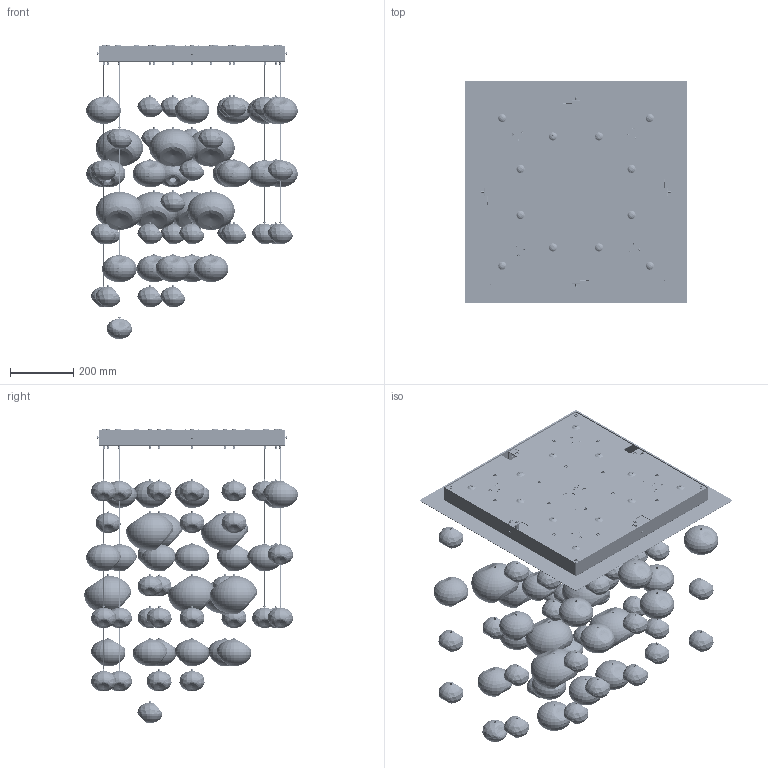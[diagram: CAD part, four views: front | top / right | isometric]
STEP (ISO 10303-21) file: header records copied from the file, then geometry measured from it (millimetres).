
FILE_DESCRIPTION(/* description */ (''),/* implementation_level */ '2;1');
FILE_NAME(/* name */ 'ETHER SQUARE D',/* time_stamp */ '2025-09-04T16:50:59+02:00',/* author */ (''),/* organization */ (''),/* preprocessor_version */ 'ST-DEVELOPER v16.5',/* originating_system */ 'Rhino 7.38',/* authorisation */ '');
FILE_SCHEMA (('CONFIG_CONTROL_DESIGN'));
Products named in the file (54): Document; Z0009; 146C009; 146C009-1; 146C009-2; X0057-008; DADO M4 DIN934 ZB; RONDELLA DENTELLATA ESTERNA M4; Z0033; Z0008; K011; RONDELLA M4 D.12 H1 ZINCATA DIN9021; VITE TCEI M4X6 UNI5931 ZB; X0072; 146C006; VITE TCEI M4X12 UNI5931 ZB; W027; K016; 146C010-G-927; Z0022; C026-927; C005; C008; B005; Vite TSP CR M3x8 zincata; VITE TC AUTOFIL M2,9X9,5 ZN UNI6954AB DIN7981C; K001; R001-36; 146C005; RONDELLA Ø7 H2 F.Ø3.2 STEAB 5021-2-118; VITE AUTOFIL. Ø2.9X6.5 TCC UNI 6954 AB; VITE TCEI M3X25 UNI5931 ZB; E007-0,5A; W037; Z017-P; W042; W044; 146C003; 146C020-E; 146C016-A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
Assembly tree (222 placements, depth 3):
  Document
    Z0009  x22
    146C009
      146C009-1
      146C009-2
      X0057-008  x5
    DADO M4 DIN934 ZB  x4
    RONDELLA DENTELLATA ESTERNA M4  x4
    Z0033  x4
      Z0008
      K011
    RONDELLA M4 D.12 H1 ZINCATA DIN9021  x4
    VITE TCEI M4X6 UNI5931 ZB  x4
    X0072  x22
    146C006  x22
    VITE TCEI M4X12 UNI5931 ZB  x4
    W027
    K016
    146C010-G-927  x4
      Z0022
      C026-927
      C005
      C008
      B005
      Vite TSP CR M3x8 zincata
      VITE TC AUTOFIL M2,9X9,5 ZN UNI6954AB DIN7981C
      K001
      R001-36
      146C005
      RONDELLA Ø7 H2 F.Ø3.2 STEAB 5021-2-118
      VITE AUTOFIL. Ø2.9X6.5 TCC UNI 6954 AB
      VITE TCEI M3X25 UNI5931 ZB
      E007-0,5A
      W037
      Z017-P
      W042
      W044
    146C003
    146C020-E  x4
      146C016-A
      146C013
      146C015
      146C014
      146C011
      SEEGER N.4 ZINCATO minetti
    146C020-F  x6
      146C016-B
      146C014
      146C013
      SEEGER N.4 ZINCATO minetti
      00146C012
    146C020-D  x5
      146C016-B
      146C014
      146C013
      SEEGER N.4 ZINCATO minetti
      146C011
    146C020-C  x2
      146C016-A
      146C015
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Bounding box: 700 x 700 x 928.81 mm (x, y, z)
Volume: 4193796.1 mm3; surface area: 5862435.6 mm2
Topology: 467 solids, 489 shells, 17512 faces, 45363 edges, 29806 vertices
Faces by surface type: plane 8974, cylinder 5019, bspline 3519
Full cylindrical faces by diameter (mm): 0.65 x5, 0.88 x8, 1 x76, 1.02 x1, 1.15 x16, 1.25 x4, 1.5 x16, 2 x44, 2.25 x8, 2.3 x16, 2.459 x19, 2.8 x8, 2.9 x29, 3 x99, 3.1 x8, 3.2 x12, 3.242 x12, 3.3 x30, 3.5 x22, 3.7 x1, 4 x43, 4.3 x13, 4.9 x4, 5 x8, 5.2 x1, 5.5 x21, 5.6 x8, 5.8 x5, 6 x22, 6.5 x56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
Entity records: 368605 total; most frequent: CARTESIAN_POINT 297508, ORIENTED_EDGE 16407, EDGE_CURVE 8205, VERTEX_POINT 5408, B_SPLINE_CURVE_WITH_KNOTS 5167, EDGE_LOOP 3533, ADVANCED_FACE 3048, FACE_OUTER_BOUND 3048
